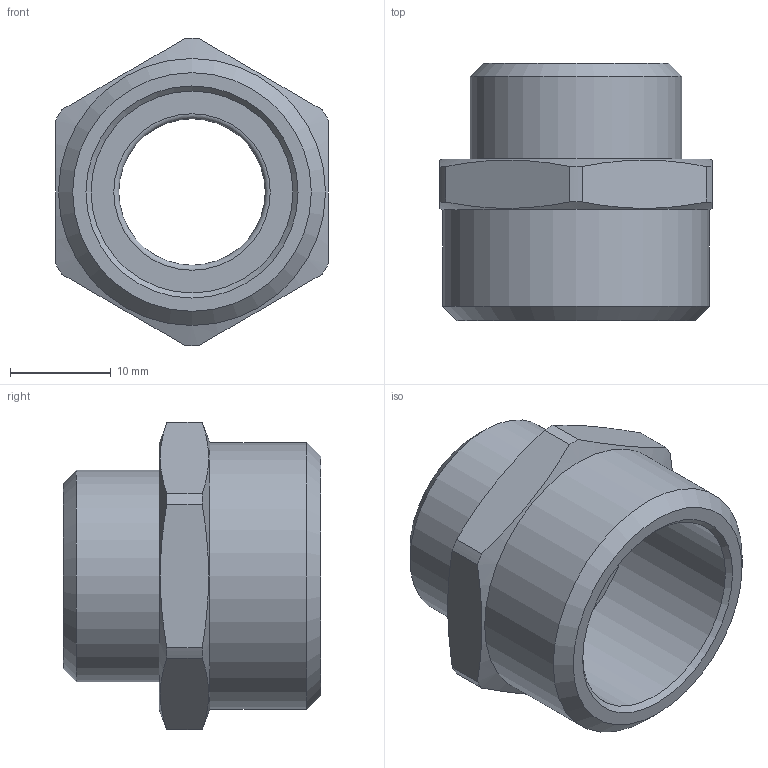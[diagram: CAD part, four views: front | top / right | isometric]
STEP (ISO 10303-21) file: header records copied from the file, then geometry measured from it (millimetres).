
FILE_DESCRIPTION(('STEP AP203'), '1');
FILE_NAME('覆.753137.029 - VTr.580.N.0504 侳瀅. G3-4xG1-2', '2024-07-03T10:13:24', ('Boss'), (''), 'C3D Converter', 'C3D Toolkit', '');
FILE_SCHEMA(('CONFIG_CONTROL_DESIGN'));
Length unit declared in the file: millimetre
Products named in the file (1): ВР.753137.029
Bounding box: 27 x 25.5 x 30.5 mm (x, y, z)
Volume: 5981.5 mm3; surface area: 4115.6 mm2
Topology: 1 solids, 1 shells, 27 faces, 63 edges, 40 vertices
Faces by surface type: cylinder 10, plane 10, cone 6, torus 1
Full cylindrical faces by diameter (mm): 14.5 x1, 20 x1, 20.955 x1, 26.441 x1
Entity records: 1159 total; most frequent: CARTESIAN_POINT 552, DIRECTION 120, ORIENTED_EDGE 104, AXIS2_PLACEMENT_3D 54, EDGE_CURVE 52, EDGE_LOOP 42, VERTEX_POINT 40, ADVANCED_FACE 27
